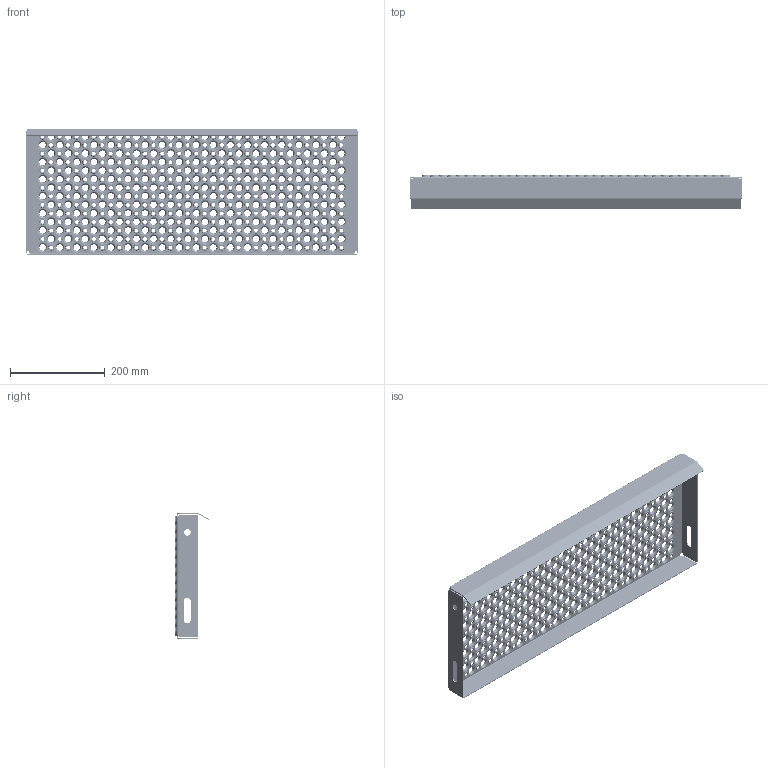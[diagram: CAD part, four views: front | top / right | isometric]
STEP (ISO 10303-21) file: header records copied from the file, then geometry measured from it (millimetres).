
FILE_DESCRIPTION (( 'STEP AP203' ), '1' );
FILE_NAME ('80242607G_Lejdertrin_265x700x45_mm_.STEP', '2015-01-19T13:11:24', ( '' ), ( '' ), 'SwSTEP 2.0', 'SolidWorks 2013', '' );
FILE_SCHEMA (( 'CONFIG_CONTROL_DESIGN' ));
Products named in the file (1): 80242607G_Lejdertrin_265x700x45_mm_
Bounding box: 700 x 71.67 x 265 mm (x, y, z)
Volume: 529223 mm3; surface area: 571151 mm2
Topology: 1 solids, 1 shells, 2596 faces, 7238 edges, 4644 vertices
Faces by surface type: cone 1512, torus 1008, cylinder 36, plane 32, bspline 8
Full cylindrical faces by diameter (mm): 14 x2
Entity records: 60113 total; most frequent: DIRECTION 11430, CARTESIAN_POINT 9433, ORIENTED_EDGE 6408, EDGE_LOOP 6134, AXIS2_PLACEMENT_3D 5669, FACE_OUTER_BOUND 3606, EDGE_CURVE 3204, VERTEX_POINT 3132
